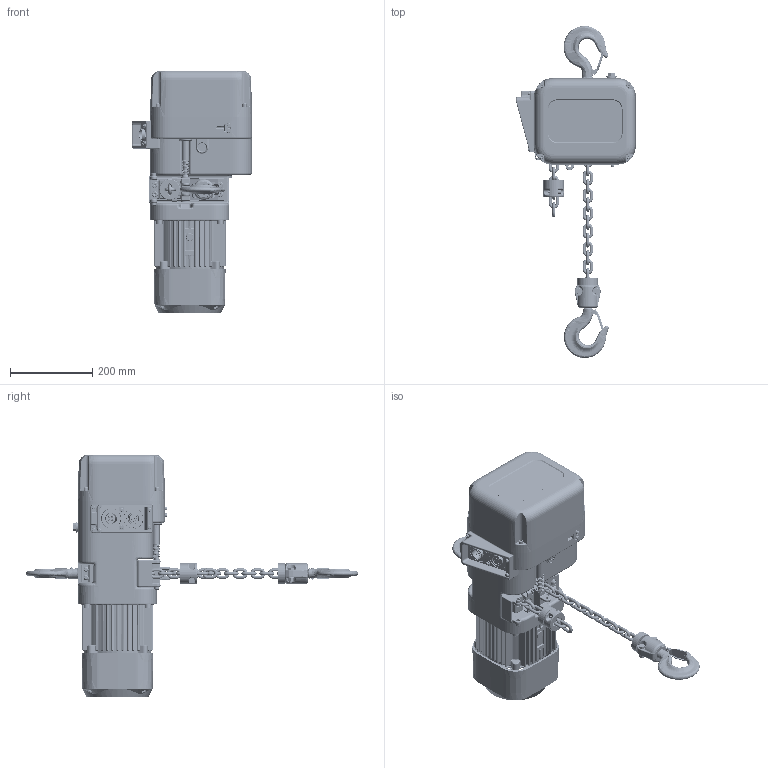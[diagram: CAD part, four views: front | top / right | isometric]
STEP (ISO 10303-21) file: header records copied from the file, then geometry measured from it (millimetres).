
FILE_DESCRIPTION (( 'STEP AP214' ), '1' );
FILE_NAME ('NER2010L.STEP', '2025-10-10T18:49:58', ( '' ), ( '' ), 'SwSTEP 2.0', 'SolidWorks 2025', '' );
FILE_SCHEMA (( 'AUTOMOTIVE_DESIGN' ));
Length unit declared in the file: millimetre
Products named in the file (46): LCER2010NP; ER2DS9104_ER2DS9104; ER1BS9135; ER2CS2523; ER2BHM10S9A5; ER2DS9337; 9091234_B18.3.1M - 5 x 0.8 x 45 Hex SHCS -- 22CHX; MS561010; ES127005S; NER2010L; J1WS011-20080_Rectangular section spring washer BS 4464 - 16 (Type B); J1NA001-20080_B18.2.4.1M - Hex nut, Style 1,  M8 x 1.25 --D-C; LCER2010NP_18; ER2CS9121; ER2CS9107_ER2CS9107; E3S112003; J1BG10601212_B18.3.1M - 6 x 1.0 x 12 Hex SHCS -- 12CHX; ER2CS9357; J1BY9-0803022_B18.2.3.1M - Hex cap screw, M8 x 1.25 x 30 --30C; ER2DS9015; ER2DS2015; ER2DS9338; ER2DS9101; 9091296_9091296; ES558003; ER2CS9511; ER2DS9103; 9012711_9012711; ER2CS9186; ER2DS9331; ER2DS9011; ER1BS9535; J1BG10604040_J1BG10604040; E3S111003; ER1DS1041; ER2DL9105; ER1DS9053; 9091274_9091274; ER2CS9123; ER2DS1001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
Assembly tree (110 placements, depth 4):
  NER2010L
    ER2DS9104_ER2DS9104
    ER2DS9101
    ER2DS9103
    ER2DS1011
      ER2DS2015
        ER2DS9015  x2
        J1BY9-0803022_B18.2.3.1M - Hex cap screw, M8 x 1.25 x 30 --30C  x2
        J1WS011-20080_Rectangular section spring washer BS 4464 - 16 (Type B)  x2
        J1NA001-20080_B18.2.4.1M - Hex nut, Style 1,  M8 x 1.25 --D-C  x2
      ER2DS9011
      ER2DS1002
    ER2DS9331
    ER2DS9337
    ER2DS9338
    ER2CS9357
    ER2CS9121  x2
    ER1DS9053  x2
    ER1DS1041
    ER2CS9186
    ER2CS9123
    LCER2010NP_18
      LCER2010NP  x18
    ER2CS9511
    ER2CS2564
    ER2CS2523
    ES127005S
    ER1BS9135
    E3S112003  x2
    E3S111003  x2
    9091296_9091296  x4
    J1BG10601212_B18.3.1M - 6 x 1.0 x 12 Hex SHCS -- 12CHX
    9012711_9012711  x4
    9091274_9091274  x4
    MS561010  x6
    ES558003  x8
    LCER2010NP (SHAPED)
      LCER2010NP  x11
    ER1BS9535
    M6F554010  x2
    ER2BHM10S9A5
    ER2DL9105
    ER2CS9107_ER2CS9107
    9091234_B18.3.1M - 5 x 0.8 x 45 Hex SHCS -- 22CHX  x4
    J1BG10604040_J1BG10604040  x4
    ER2DS1001
      ER2DS9001
      ER2DS1002
Bounding box: 291 x 805.95 x 589 mm (x, y, z)
Volume: 13588363.8 mm3; surface area: 1489632.2 mm2
Topology: 120 solids, 125 shells, 5895 faces, 15417 edges, 9733 vertices
Faces by surface type: cylinder 2208, plane 1874, torus 824, bspline 468, cone 365, sphere 156
Entity records: 185850 total; most frequent: CARTESIAN_POINT 69807, ORIENTED_EDGE 23774, DIRECTION 23737, EDGE_CURVE 11887, AXIS2_PLACEMENT_3D 9027, VERTEX_POINT 7668, VECTOR 5683, LINE 5683
